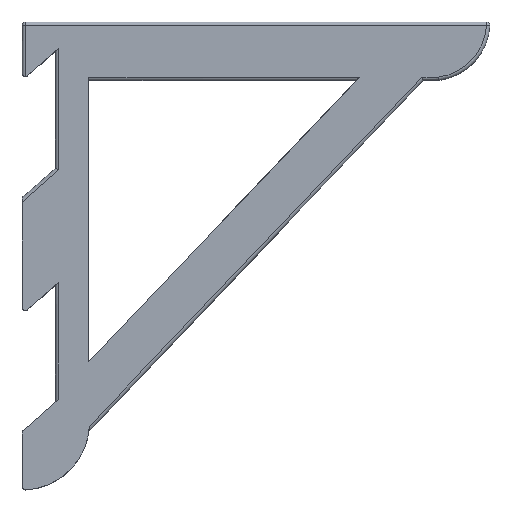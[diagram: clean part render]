
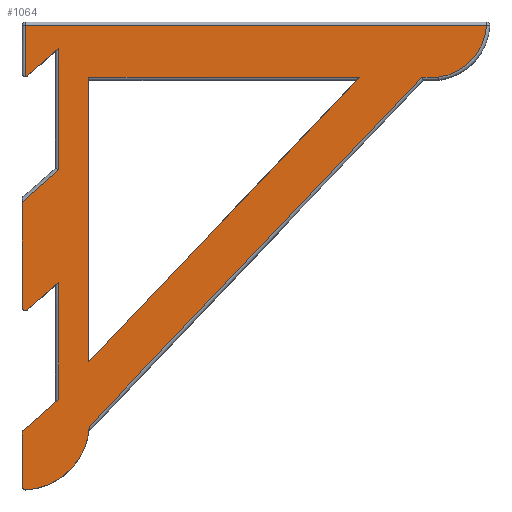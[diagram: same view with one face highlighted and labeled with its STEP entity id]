
A CAD part, top view. The second image highlights one B-rep face of the part: STEP entity #1064.
In plain terms, the highlighted planar face has unit normal (0, 0, 1).
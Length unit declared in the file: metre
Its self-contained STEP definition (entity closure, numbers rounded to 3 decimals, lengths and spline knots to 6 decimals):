
#62=CIRCLE('',#1136,0.025627);
#65=CIRCLE('',#1157,0.00127);
#66=CIRCLE('',#1158,0.00127);
#67=CIRCLE('',#1159,0.00127);
#68=CIRCLE('',#1160,0.021153);
#69=CIRCLE('',#1161,0.00127);
#198=ORIENTED_EDGE('',*,*,#478,.F.);
#199=ORIENTED_EDGE('',*,*,#504,.T.);
#200=ORIENTED_EDGE('',*,*,#505,.T.);
#201=ORIENTED_EDGE('',*,*,#432,.F.);
#202=ORIENTED_EDGE('',*,*,#506,.T.);
#203=ORIENTED_EDGE('',*,*,#489,.F.);
#204=ORIENTED_EDGE('',*,*,#507,.T.);
#205=ORIENTED_EDGE('',*,*,#495,.F.);
#206=ORIENTED_EDGE('',*,*,#508,.T.);
#207=ORIENTED_EDGE('',*,*,#497,.F.);
#208=ORIENTED_EDGE('',*,*,#509,.T.);
#209=ORIENTED_EDGE('',*,*,#456,.T.);
#210=ORIENTED_EDGE('',*,*,#510,.T.);
#211=ORIENTED_EDGE('',*,*,#511,.T.);
#212=ORIENTED_EDGE('',*,*,#512,.T.);
#213=ORIENTED_EDGE('',*,*,#513,.T.);
#214=ORIENTED_EDGE('',*,*,#514,.T.);
#215=ORIENTED_EDGE('',*,*,#515,.T.);
#216=ORIENTED_EDGE('',*,*,#516,.T.);
#217=ORIENTED_EDGE('',*,*,#502,.F.);
#218=ORIENTED_EDGE('',*,*,#448,.F.);
#432=EDGE_CURVE('',#590,#591,#682,.T.);
#448=EDGE_CURVE('',#606,#602,#696,.T.);
#456=EDGE_CURVE('',#609,#613,#62,.T.);
#478=EDGE_CURVE('',#632,#628,#720,.T.);
#489=EDGE_CURVE('',#641,#637,#730,.T.);
#495=EDGE_CURVE('',#645,#646,#736,.T.);
#497=EDGE_CURVE('',#647,#648,#737,.T.);
#502=EDGE_CURVE('',#602,#651,#742,.T.);
#504=EDGE_CURVE('',#632,#652,#743,.T.);
#505=EDGE_CURVE('',#652,#591,#744,.F.);
#506=EDGE_CURVE('',#590,#637,#65,.T.);
#507=EDGE_CURVE('',#641,#646,#745,.F.);
#508=EDGE_CURVE('',#645,#648,#66,.T.);
#509=EDGE_CURVE('',#647,#609,#67,.T.);
#510=EDGE_CURVE('',#613,#653,#746,.F.);
#511=EDGE_CURVE('',#653,#654,#747,.T.);
#512=EDGE_CURVE('',#654,#655,#68,.T.);
#513=EDGE_CURVE('',#655,#656,#748,.F.);
#514=EDGE_CURVE('',#656,#657,#749,.F.);
#515=EDGE_CURVE('',#657,#628,#69,.T.);
#516=EDGE_CURVE('',#606,#651,#750,.T.);
#590=VERTEX_POINT('',#1607);
#591=VERTEX_POINT('',#1608);
#602=VERTEX_POINT('',#1632);
#606=VERTEX_POINT('',#1639);
#609=VERTEX_POINT('',#1649);
#613=VERTEX_POINT('',#1661);
#628=VERTEX_POINT('',#1701);
#632=VERTEX_POINT('',#1708);
#637=VERTEX_POINT('',#1724);
#641=VERTEX_POINT('',#1731);
#645=VERTEX_POINT('',#1743);
#646=VERTEX_POINT('',#1745);
#647=VERTEX_POINT('',#1749);
#648=VERTEX_POINT('',#1750);
#651=VERTEX_POINT('',#1759);
#652=VERTEX_POINT('',#1763);
#653=VERTEX_POINT('',#1770);
#654=VERTEX_POINT('',#1772);
#655=VERTEX_POINT('',#1774);
#656=VERTEX_POINT('',#1776);
#657=VERTEX_POINT('',#1778);
#682=LINE('',#1606,#780);
#696=LINE('',#1640,#794);
#720=LINE('',#1709,#818);
#730=LINE('',#1732,#828);
#736=LINE('',#1744,#834);
#737=LINE('',#1748,#835);
#742=LINE('',#1758,#840);
#743=LINE('',#1762,#841);
#744=LINE('',#1764,#842);
#745=LINE('',#1766,#843);
#746=LINE('',#1769,#844);
#747=LINE('',#1771,#845);
#748=LINE('',#1775,#846);
#749=LINE('',#1777,#847);
#750=LINE('',#1780,#848);
#780=VECTOR('',#1258,1.);
#794=VECTOR('',#1278,1.);
#818=VECTOR('',#1328,1.);
#828=VECTOR('',#1346,1.);
#834=VECTOR('',#1356,1.);
#835=VECTOR('',#1361,1.);
#840=VECTOR('',#1368,1.);
#841=VECTOR('',#1373,1.);
#842=VECTOR('',#1374,1.);
#843=VECTOR('',#1377,1.);
#844=VECTOR('',#1382,1.);
#845=VECTOR('',#1383,1.);
#846=VECTOR('',#1386,1.);
#847=VECTOR('',#1387,1.);
#848=VECTOR('',#1390,1.);
#896=EDGE_LOOP('',(#198,#199,#200,#201,#202,#203,#204,#205,#206,#207,#208,
#209,#210,#211,#212,#213,#214,#215));
#897=EDGE_LOOP('',(#216,#217,#218));
#968=FACE_BOUND('',#896,.T.);
#969=FACE_BOUND('',#897,.T.);
#1037=PLANE('',#1156);
#1064=ADVANCED_FACE('',(#968,#969),#1037,.T.);
#1136=AXIS2_PLACEMENT_3D('',#1662,#1290,#1291);
#1156=AXIS2_PLACEMENT_3D('',#1761,#1371,#1372);
#1157=AXIS2_PLACEMENT_3D('',#1765,#1375,#1376);
#1158=AXIS2_PLACEMENT_3D('',#1767,#1378,#1379);
#1159=AXIS2_PLACEMENT_3D('',#1768,#1380,#1381);
#1160=AXIS2_PLACEMENT_3D('',#1773,#1384,#1385);
#1161=AXIS2_PLACEMENT_3D('',#1779,#1388,#1389);
#1258=DIRECTION('',(0.,1.,0.));
#1278=DIRECTION('',(0.,-1.,0.));
#1290=DIRECTION('',(0.,0.,1.));
#1291=DIRECTION('',(1.,0.,0.));
#1328=DIRECTION('',(-0.753,-0.659,0.));
#1346=DIRECTION('',(-0.753,-0.659,0.));
#1356=DIRECTION('',(0.753,0.659,0.));
#1361=DIRECTION('',(0.,1.,0.));
#1368=DIRECTION('',(0.69,0.724,0.));
#1371=DIRECTION('',(0.,0.,1.));
#1372=DIRECTION('',(1.,0.,0.));
#1373=DIRECTION('',(0.,-1.,0.));
#1374=DIRECTION('',(0.753,0.659,0.));
#1375=DIRECTION('',(0.,0.,1.));
#1376=DIRECTION('',(1.,0.,0.));
#1377=DIRECTION('',(0.,1.,0.));
#1378=DIRECTION('',(0.,0.,1.));
#1379=DIRECTION('',(1.,0.,0.));
#1380=DIRECTION('',(0.,0.,1.));
#1381=DIRECTION('',(1.,0.,0.));
#1382=DIRECTION('',(-0.69,-0.724,0.));
#1383=DIRECTION('',(1.,0.,0.));
#1384=DIRECTION('',(0.,0.,1.));
#1385=DIRECTION('',(1.,0.,0.));
#1386=DIRECTION('',(1.,0.,0.));
#1387=DIRECTION('',(0.,1.,0.));
#1388=DIRECTION('',(0.,0.,1.));
#1389=DIRECTION('',(1.,0.,0.));
#1390=DIRECTION('',(1.,0.,0.));
#1606=CARTESIAN_POINT('',(-0.0127,0.005556,0.0254));
#1607=CARTESIAN_POINT('',(-0.0127,-0.019426,0.0254));
#1608=CARTESIAN_POINT('',(-0.0127,0.020537,0.0254));
#1632=CARTESIAN_POINT('',(0.0127,-0.040005,0.0254));
#1639=CARTESIAN_POINT('',(0.0127,0.067945,0.0254));
#1640=CARTESIAN_POINT('',(0.0127,-0.020003,0.0254));
#1649=CARTESIAN_POINT('',(-0.011364,-0.088865,0.0254));
#1661=CARTESIAN_POINT('',(0.012891,-0.064633,0.0254));
#1662=CARTESIAN_POINT('',(-0.0127,-0.063273,0.0254));
#1701=CARTESIAN_POINT('',(-0.010594,0.068518,0.0254));
#1708=CARTESIAN_POINT('',(0.00127,0.078899,0.0254));
#1709=CARTESIAN_POINT('',(-0.00635,0.072231,0.0254));
#1724=CARTESIAN_POINT('',(-0.010594,-0.020382,0.0254));
#1731=CARTESIAN_POINT('',(0.00127,-0.010001,0.0254));
#1732=CARTESIAN_POINT('',(-0.00635,-0.016669,0.0254));
#1743=CARTESIAN_POINT('',(-0.012266,-0.066296,0.0254));
#1744=CARTESIAN_POINT('',(-0.00635,-0.061119,0.0254));
#1745=CARTESIAN_POINT('',(0.00127,-0.054451,0.0254));
#1748=CARTESIAN_POINT('',(-0.0127,-0.077788,0.0254));
#1749=CARTESIAN_POINT('',(-0.0127,-0.087597,0.0254));
#1750=CARTESIAN_POINT('',(-0.0127,-0.067251,0.0254));
#1758=CARTESIAN_POINT('',(0.0635,0.013335,0.0254));
#1759=CARTESIAN_POINT('',(0.11551,0.067945,0.0254));
#1761=CARTESIAN_POINT('',(0.0762,0.,0.0254));
#1762=CARTESIAN_POINT('',(0.00127,0.033338,0.0254));
#1763=CARTESIAN_POINT('',(0.00127,0.032761,0.0254));
#1764=CARTESIAN_POINT('',(0.027473,0.055688,0.0254));
#1765=CARTESIAN_POINT('',(-0.01143,-0.019426,0.0254));
#1766=CARTESIAN_POINT('',(0.00127,0.,0.0254));
#1767=CARTESIAN_POINT('',(-0.01143,-0.067251,0.0254));
#1768=CARTESIAN_POINT('',(-0.01143,-0.087597,0.0254));
#1769=CARTESIAN_POINT('',(0.07528,0.000876,0.0254));
#1770=CARTESIAN_POINT('',(0.139156,0.067945,0.0254));
#1771=CARTESIAN_POINT('',(0.145653,0.067945,0.0254));
#1772=CARTESIAN_POINT('',(0.145567,0.067945,0.0254));
#1773=CARTESIAN_POINT('',(0.142677,0.0889,0.0254));
#1774=CARTESIAN_POINT('',(0.163792,0.08763,0.0254));
#1775=CARTESIAN_POINT('',(0.0762,0.08763,0.0254));
#1776=CARTESIAN_POINT('',(-0.01143,0.08763,0.0254));
#1777=CARTESIAN_POINT('',(-0.01143,0.,0.0254));
#1778=CARTESIAN_POINT('',(-0.01143,0.068204,0.0254));
#1779=CARTESIAN_POINT('',(-0.01143,0.069474,0.0254));
#1780=CARTESIAN_POINT('',(0.1143,0.067945,0.0254));
